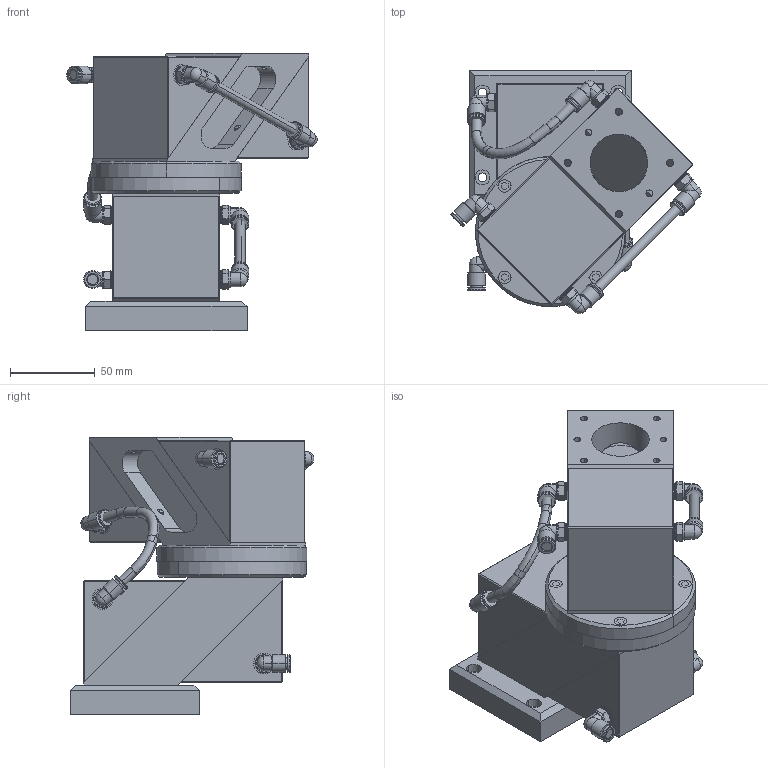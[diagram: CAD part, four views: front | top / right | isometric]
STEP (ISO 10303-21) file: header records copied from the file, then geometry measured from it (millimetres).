
FILE_DESCRIPTION (( 'STEP AP214' ), '1' );
FILE_NAME ('BQE-38-9.4-CFB.STEP', '2017-03-20T14:50:57', ( '' ), ( '' ), 'SwSTEP 2.0', 'SolidWorks 2017', '' );
FILE_SCHEMA (( 'AUTOMOTIVE_DESIGN' ));
Length unit declared in the file: inch
Products named in the file (1): BQE-38-9.4-CFB
Bounding box: 147.47 x 143.7 x 163.5 mm (x, y, z)
Volume: 1048770.3 mm3; surface area: 242673.2 mm2
Topology: 54 solids, 54 shells, 1389 faces, 3192 edges, 1992 vertices
Faces by surface type: plane 443, cylinder 381, cone 338, torus 132, bspline 87, sphere 8
Entity records: 108215 total; most frequent: CARTESIAN_POINT 76865, ORIENTED_EDGE 6368, DIRECTION 6284, EDGE_CURVE 3184, AXIS2_PLACEMENT_3D 2519, VERTEX_POINT 1992, EDGE_LOOP 1516, ADVANCED_FACE 1389
